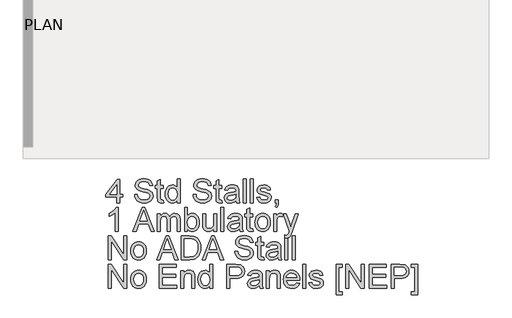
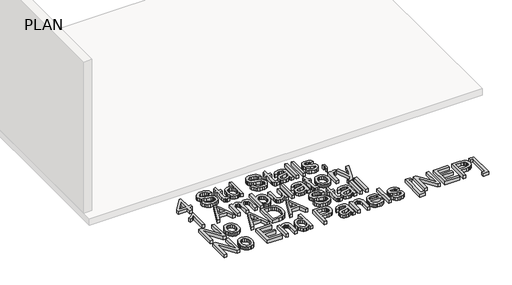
# One storey, part 8 of 21: 1 proxy.
"""IFC4 building model written with IfcOpenShell, lengths in millimetres."""

from ifc_helpers import new_model, si_unit, origin, origin_with_axes, place, context, project, spatial, polyline, outline, extrude, element, save

model = new_model("IFC4")

# Units and contexts
model_context = context("Model", 3, world=origin())
ifc_project = project(units=[si_unit("LENGTHUNIT", "METRE", prefix="MILLI")], contexts=[model_context])

# Site, building, storey
site = spatial("IfcSite", under=ifc_project)
building = spatial("IfcBuilding", under=site)
storey = spatial("IfcBuildingStorey", under=building, Name="PLAN", Elevation=0.0)

# Proxy
placement = place(None, origin())
element("IfcBuildingElementProxy", 1, Name="12\" Arial", ObjectType="12\" Arial", at=placement, inside=storey, context=model_context, shape_type="SweptSolid", body=[
    extrude(outline(polyline([(17734.3075559, -13355.7604361), (17734.3075559, -13284.3775235), (17596.3005914, -13284.3775235), (17596.3005914, -13246.3066367), (17743.8252776, -13055.9522029), (17772.3784427, -13055.9522029), (17772.3784427, -13246.3066367), (17810.4493294, -13246.3066367), (17810.4493294, -13284.3775235), (17772.3784427, -13284.3775235), (17772.3784427, -13355.7604361), (17734.3075559, -13355.7604361)]), holes=[polyline([(17734.3075559, -13246.3066367), (17734.3075559, -13128.6735452), (17643.1456279, -13246.3066367), (17734.3075559, -13246.3066367)])]), origin_with_axes(), (0.0, 0.0, 1.0), 50.8),
    extrude(outline(polyline([(17962.7328765, -13251.0654975), (18000.8037632, -13251.0654975), (18005.1722488, -13272.1922372), (18013.0727014, -13289.1735629), (18025.3974074, -13302.6508055), (18043.0386532, -13313.2652959), (18064.6022414, -13320.1526316), (18088.6939745, -13322.4484102), (18109.904366, -13320.7103106), (18128.4750768, -13315.4960119), (18143.5231153, -13307.2423627), (18154.1654897, -13296.3862114), (18160.4951464, -13283.9220856), (18162.605032, -13270.8445129), (18161.0249415, -13258.1015477), (18156.2846699, -13247.0873873), (18146.6554124, -13237.6904961), (18130.4083641, -13229.7993381), (18074.9750709, -13215.2625054), (18038.5865158, -13205.6425426), (18015.3034174, -13196.4873122), (17996.3516259, -13183.6792844), (17982.9208565, -13168.1572188), (17974.9181627, -13150.2557227), (17972.2505982, -13130.3094036), (17975.550199, -13108.011538), (17985.4490013, -13087.2194058), (18001.686755, -13069.5967492), (18024.0032099, -13056.8073107), (18050.7903914, -13049.0276886), (18080.4403252, -13046.4344812), (18112.5626359, -13049.148519), (18140.6696578, -13057.2906325), (18163.7575686, -13070.6935179), (18180.8225461, -13089.1898716), (18191.6229295, -13111.6271569), (18195.9170579, -13136.8528373), (18157.8461711, -13136.8528373), (18150.8565943, -13114.1367124), (18136.2825829, -13097.7409497), (18113.5106902, -13087.8142634), (18081.9274692, -13084.505368), (18049.6006762, -13087.7770848), (18027.4236411, -13097.5922353), (18014.597024, -13112.0361215), (18010.3214849, -13129.1940456), (18013.3515409, -13143.8238248), (18022.4417086, -13155.5908518), (18043.9309396, -13166.1123957), (18084.6043284, -13176.8570112), (18126.5789682, -13187.062537), (18151.9719523, -13195.9668118), (18173.6749602, -13209.7786618), (18188.8159452, -13226.8250501), (18197.7109253, -13246.9200836), (18200.6759187, -13269.8778693), (18197.2647821, -13293.3468608), (18187.0313724, -13315.4216547), (18170.3939487, -13334.4199195), (18147.7707704, -13348.6593235), (18120.5653296, -13357.5543036), (18090.1811185, -13360.519297), (18052.8816877, -13357.3219373), (18022.1814584, -13347.7298584), (17997.7272341, -13331.7058817), (17979.1658178, -13309.2128285), (17967.2500764, -13281.8122), (17962.7328765, -13251.0654975)])), origin_with_axes(), (0.0, 0.0, 1.0), 50.8),
    extrude(outline(polyline([(18333.9240224, -13324.0099114), (18338.6828832, -13356.8757941), (18310.2040754, -13360.519297), (18291.9307933, -13358.9392065), (18278.3048363, -13354.1989349), (18268.6755788, -13346.8933399), (18262.3923953, -13337.6172792), (18258.9347855, -13321.6862489), (18257.7822489, -13294.4157455), (18257.7822489, -13170.1648632), (18229.2290838, -13170.1648632), (18229.2290838, -13132.0939764), (18257.7822489, -13132.0939764), (18257.7822489, -13077.7388627), (18295.8531356, -13055.3573453), (18295.8531356, -13132.0939764), (18333.9240224, -13132.0939764), (18333.9240224, -13170.1648632), (18295.8531356, -13170.1648632), (18295.8531356, -13293.3003875), (18297.86078, -13312.9306885), (18304.3670351, -13319.8830868), (18317.3423666, -13322.4484102), (18333.9240224, -13324.0099114)])), origin_with_axes(), (0.0, 0.0, 1.0), 50.8),
    extrude(outline(polyline([(18510.0018736, -13355.7604361), (18510.0018736, -13319.8459082), (18498.61128, -13337.6405158), (18484.8133719, -13350.3509498), (18468.6081495, -13357.9772102), (18449.9956127, -13360.519297), (18425.3833792, -13356.8386155), (18402.8531474, -13345.7965712), (18383.7805254, -13328.16462), (18369.5411215, -13304.7142178), (18360.6740253, -13276.393419), (18357.7183266, -13244.1502779), (18360.4416591, -13212.3068067), (18368.6116565, -13183.5491593), (18382.2190242, -13159.5131942), (18401.2544676, -13141.8347697), (18424.2773159, -13130.9600291), (18449.8468983, -13127.3351156), (18468.473377, -13129.9283229), (18484.943497, -13137.7079451), (18498.9040614, -13149.6329811), (18510.0018736, -13164.6624303), (18510.0018736, -13051.1933421), (18548.0727604, -13051.1933421), (18548.0727604, -13355.7604361), (18510.0018736, -13355.7604361)]), holes=[polyline([(18395.7892134, -13244.0015635), (18400.0833417, -13278.438242), (18412.9657267, -13302.929645), (18431.685152, -13317.5687189), (18453.4904011, -13322.4484102), (18475.2863556, -13317.7917905), (18493.5317537, -13303.8219314), (18505.8843436, -13280.2785828), (18510.0018736, -13246.9014943), (18505.8099864, -13210.4106981), (18493.2343249, -13185.1106605), (18474.5241943, -13170.3321669), (18451.9288999, -13165.4060023), (18429.9005792, -13170.1369792), (18411.8503687, -13184.3299099), (18399.8045022, -13208.7097771), (18395.7892134, -13244.0015635)])]), origin_with_axes(), (0.0, 0.0, 1.0), 50.8),
    extrude(outline(polyline([(18714.63289, -13251.0654975), (18752.7037767, -13251.0654975), (18757.0722623, -13272.1922372), (18764.9727148, -13289.1735629), (18777.2974209, -13302.6508055), (18794.9386667, -13313.2652959), (18816.5022549, -13320.1526316), (18840.593988, -13322.4484102), (18861.8043795, -13320.7103106), (18880.3750903, -13315.4960119), (18895.4231288, -13307.2423627), (18906.0655032, -13296.3862114), (18912.3951599, -13283.9220856), (18914.5050454, -13270.8445129), (18912.9249549, -13258.1015477), (18908.1846834, -13247.0873873), (18898.5554259, -13237.6904961), (18882.3083775, -13229.7993381), (18826.8750844, -13215.2625054), (18790.4865293, -13205.6425426), (18767.2034309, -13196.4873122), (18748.2516393, -13183.6792844), (18734.82087, -13168.1572188), (18726.8181762, -13150.2557227), (18724.1506117, -13130.3094036), (18727.4502124, -13108.011538), (18737.3490148, -13087.2194058), (18753.5867685, -13069.5967492), (18775.9032233, -13056.8073107), (18802.6904049, -13049.0276886), (18832.3403387, -13046.4344812), (18864.4626494, -13049.148519), (18892.5696712, -13057.2906325), (18915.6575821, -13070.6935179), (18932.7225596, -13089.1898716), (18943.522943, -13111.6271569), (18947.8170714, -13136.8528373), (18909.7461846, -13136.8528373), (18902.7566077, -13114.1367124), (18888.1825964, -13097.7409497), (18865.4107037, -13087.8142634), (18833.8274827, -13084.505368), (18801.5006897, -13087.7770848), (18779.3236546, -13097.5922353), (18766.4970375, -13112.0361215), (18762.2214984, -13129.1940456), (18765.2515543, -13143.8238248), (18774.3417221, -13155.5908518), (18795.8309531, -13166.1123957), (18836.5043419, -13176.8570112), (18878.4789817, -13187.062537), (18903.8719657, -13195.9668118), (18925.5749737, -13209.7786618), (18940.7159587, -13226.8250501), (18949.6109388, -13246.9200836), (18952.5759322, -13269.8778693), (18949.1647956, -13293.3468608), (18938.9313859, -13315.4216547), (18922.2939622, -13334.4199195), (18899.6707839, -13348.6593235), (18872.4653431, -13357.5543036), (18842.081132, -13360.519297), (18804.7817012, -13357.3219373), (18774.0814719, -13347.7298584), (18749.6272475, -13331.7058817), (18731.0658313, -13309.2128285), (18719.1500899, -13281.8122), (18714.63289, -13251.0654975)])), origin_with_axes(), (0.0, 0.0, 1.0), 50.8),
    extrude(outline(polyline([(19085.8240359, -13324.0099114), (19090.5828967, -13356.8757941), (19062.1040888, -13360.519297), (19043.8308068, -13358.9392065), (19030.2048497, -13354.1989349), (19020.5755922, -13346.8933399), (19014.2924088, -13337.6172792), (19010.834799, -13321.6862489), (19009.6822623, -13294.4157455), (19009.6822623, -13170.1648632), (18981.1290973, -13170.1648632), (18981.1290973, -13132.0939764), (19009.6822623, -13132.0939764), (19009.6822623, -13077.7388627), (19047.7531491, -13055.3573453), (19047.7531491, -13132.0939764), (19085.8240359, -13132.0939764), (19085.8240359, -13170.1648632), (19047.7531491, -13170.1648632), (19047.7531491, -13293.3003875), (19049.7607935, -13312.9306885), (19056.2670486, -13319.8830868), (19069.2423801, -13322.4484102), (19085.8240359, -13324.0099114)])), origin_with_axes(), (0.0, 0.0, 1.0), 50.8),
    extrude(outline(polyline([(19266.660748, -13327.2072711), (19248.4711177, -13342.8036939), (19229.7423978, -13353.0092197), (19210.0470343, -13358.6417776), (19188.9574732, -13360.519297), (19157.141886, -13356.002097), (19133.6728945, -13342.4504972), (19119.2011243, -13321.8721419), (19114.3772009, -13296.2746756), (19116.1989523, -13280.4923597), (19121.6642066, -13266.1600093), (19130.0944542, -13253.8910712), (19140.8111858, -13244.2989923), (19167.4682422, -13231.8069826), (19200.4084821, -13226.0814781), (19239.3344767, -13220.0585448), (19266.4376764, -13212.9946108), (19266.660748, -13204.5178899), (19264.0396566, -13187.5272695), (19256.1763827, -13176.410868), (19238.5909047, -13168.1572188), (19214.0902071, -13165.4060023), (19191.4112609, -13167.2370484), (19175.5731771, -13172.7301866), (19164.7727937, -13182.8892391), (19157.2069485, -13198.7180282), (19119.1360618, -13193.9591674), (19125.744558, -13173.1391512), (19135.6061817, -13156.780567), (19149.6411034, -13144.269968), (19168.7694932, -13134.9939072), (19192.1641275, -13129.2498135), (19218.9977823, -13127.3351156), (19244.7346684, -13129.0267419), (19265.1364253, -13134.1016208), (19280.5190712, -13141.7325286), (19291.1986242, -13151.0922412), (19298.2811476, -13162.6640806), (19302.8727047, -13176.9313684), (19304.7316347, -13210.2433944), (19304.7316347, -13257.6089312), (19306.6649219, -13323.7496612), (19314.2493564, -13355.7604361), (19276.1784697, -13355.7604361), (19270.0811792, -13342.5248544), (19266.660748, -13327.2072711)]), holes=[polyline([(19266.660748, -13251.0654975), (19205.2417002, -13262.739578), (19172.4873533, -13268.9112257), (19157.6530917, -13278.9494478), (19152.4480877, -13293.5978163), (19155.282956, -13304.9187001), (19163.7875608, -13314.1947609), (19177.7760092, -13320.3849979), (19197.0624081, -13322.4484102), (19217.5106383, -13320.1712209), (19235.5794381, -13313.3396531), (19250.2278066, -13303.2735471), (19260.4147431, -13291.2927431), (19264.931943, -13278.9494478), (19266.4376764, -13261.8472916), (19266.660748, -13251.0654975)])]), origin_with_axes(), (0.0, 0.0, 1.0), 50.8),
    extrude(outline(polyline([(19357.079104, -13355.7604361), (19357.079104, -13051.1933421), (19395.1499908, -13051.1933421), (19395.1499908, -13355.7604361), (19357.079104, -13355.7604361)])), origin_with_axes(), (0.0, 0.0, 1.0), 50.8),
    extrude(outline(polyline([(19452.2563209, -13355.7604361), (19452.2563209, -13051.1933421), (19490.3272077, -13051.1933421), (19490.3272077, -13355.7604361), (19452.2563209, -13355.7604361)])), origin_with_axes(), (0.0, 0.0, 1.0), 50.8),
    extrude(outline(polyline([(19533.1569553, -13289.1363843), (19571.227842, -13284.3775235), (19577.232186, -13300.6617504), (19588.8504986, -13312.6332597), (19606.1571371, -13319.9946226), (19629.2264586, -13322.4484102), (19652.0169406, -13320.1991049), (19668.0409173, -13313.4511889), (19677.5214604, -13303.673217), (19680.6816415, -13292.3337439), (19677.5028711, -13282.6301292), (19667.9665601, -13275.2315878), (19628.7803154, -13264.3754365), (19571.4509136, -13245.7489577), (19556.9419648, -13236.389245), (19546.4297156, -13223.9994765), (19540.044291, -13209.3696972), (19537.9158161, -13193.2899526), (19539.6260317, -13178.5393429), (19544.7566786, -13164.9226805), (19552.8430242, -13152.9790552), (19563.420336, -13143.2475565), (19587.6236048, -13131.9824406), (19620.3779517, -13127.3351156), (19645.1574888, -13129.2033402), (19666.7024877, -13134.8080142), (19684.0277155, -13143.6007532), (19696.1479392, -13155.0331728), (19704.1785169, -13169.9510862), (19709.2348065, -13189.2003066), (19671.1639198, -13193.9591674), (19666.3585857, -13181.9783634), (19656.8501586, -13172.9532582), (19642.5456922, -13167.2928163), (19623.3522397, -13165.4060023), (19601.4912227, -13167.2091644), (19586.9172114, -13172.6186508), (19578.71933, -13180.4261569), (19575.9867029, -13189.4233782), (19580.5224921, -13200.5026011), (19594.7247175, -13208.9049647), (19627.516243, -13217.0098996), (19683.3956793, -13234.929985), (19698.1555836, -13243.4996524), (19709.3463423, -13255.2295008), (19716.4009817, -13270.1567088), (19718.7525282, -13288.3184551), (19715.9920171, -13307.0936483), (19707.7104839, -13324.7534834), (19694.2239466, -13339.9130577), (19675.8484234, -13351.1874683), (19653.652799, -13358.1863398), (19628.7059582, -13360.519297), (19590.3190533, -13356.0206863), (19562.3049779, -13342.5248544), (19543.604142, -13320.1805156), (19533.1569553, -13289.1363843)])), origin_with_axes(), (0.0, 0.0, 1.0), 50.8),
    extrude(outline(polyline([(19771.0999975, -13355.7604361), (19771.0999975, -13317.6895494), (19809.1708843, -13317.6895494), (19809.1708843, -13355.7604361), (19807.4606687, -13377.5378013), (19802.3300218, -13394.6864307), (19793.4815149, -13407.8383606), (19780.6177192, -13417.6256271), (19771.0999975, -13403.3490446), (19779.3536468, -13396.4524142), (19785.0791512, -13386.9161032), (19790.0610837, -13355.7604361), (19771.0999975, -13355.7604361)])), origin_with_axes(), (0.0, 0.0, 1.0), 50.8),
    extrude(outline(polyline([(17753.3429993, -13721.8131005), (17715.2721126, -13721.8131005), (17715.2721126, -13484.4649158), (17679.2088702, -13510.1553287), (17639.130339, -13529.376665), (17639.130339, -13493.3877799), (17669.0312284, -13477.1221423), (17694.9354182, -13457.7706808), (17715.3557644, -13437.1923255), (17728.8051231, -13417.2460064), (17753.3429993, -13417.2460064), (17753.3429993, -13721.8131005)])), origin_with_axes(), (0.0, 0.0, 1.0), 50.8),
    extrude(outline(polyline([(17941.5410743, -13721.8131005), (18063.1150974, -13417.2460064), (18095.5348369, -13417.2460064), (18217.1088601, -13721.8131005), (18176.8816145, -13721.8131005), (18142.0080874, -13626.6358836), (18016.5674898, -13626.6358836), (17981.7683199, -13721.8131005), (17941.5410743, -13721.8131005)]), holes=[polyline([(18030.5466435, -13588.5649968), (18128.1032908, -13588.5649968), (18100.6654838, -13513.6872957), (18079.3249672, -13455.3168932), (18060.363881, -13507.143862), (18030.5466435, -13588.5649968)])]), origin_with_axes(), (0.0, 0.0, 1.0), 50.8),
    extrude(outline(polyline([(18253.023388, -13721.8131005), (18253.023388, -13498.1466408), (18291.0942748, -13498.1466408), (18291.0942748, -13534.9534551), (18302.5452837, -13518.0464866), (18317.2680094, -13504.8016102), (18334.7605409, -13496.2412375), (18354.520967, -13493.3877799), (18375.6941799, -13496.2970054), (18392.6662109, -13505.0246818), (18405.3441137, -13518.9945409), (18413.6349415, -13537.6303143), (18427.5118541, -13518.2742055), (18443.3406432, -13504.4484135), (18461.1213088, -13496.1529383), (18480.853851, -13493.3877799), (18509.4720786, -13497.9886317), (18530.6359968, -13511.7911871), (18543.7135695, -13535.1672321), (18548.0727604, -13568.4885526), (18548.0727604, -13721.8131005), (18510.0018736, -13721.8131005), (18510.0018736, -13584.8471368), (18506.4699066, -13553.0594335), (18501.5065635, -13544.2945784), (18493.6804681, -13537.4072427), (18483.614362, -13532.9458107), (18471.9309869, -13531.4586667), (18451.3061583, -13535.2694732), (18434.4921363, -13546.7018928), (18423.3106723, -13566.5366761), (18419.5835176, -13595.5545737), (18419.5835176, -13721.8131005), (18381.5126308, -13721.8131005), (18381.5126308, -13580.6087763), (18379.3097988, -13559.0823667), (18372.7013025, -13543.7276048), (18361.0736953, -13534.5259012), (18343.8135301, -13531.4586667), (18329.1465722, -13533.5034897), (18315.632151, -13539.6379587), (18304.4785709, -13549.7133594), (18296.8941364, -13563.5809774), (18292.5442402, -13582.8209031), (18291.0942748, -13609.013227), (18291.0942748, -13721.8131005), (18253.023388, -13721.8131005)])), origin_with_axes(), (0.0, 0.0, 1.0), 50.8),
    extrude(outline(polyline([(18643.2499773, -13721.8131005), (18605.1790905, -13721.8131005), (18605.1790905, -13417.2460064), (18643.2499773, -13417.2460064), (18643.2499773, -13530.1945943), (18655.769871, -13514.091613), (18669.9070337, -13502.5894835), (18685.6614656, -13495.6882058), (18703.0331667, -13493.3877799), (18722.6448783, -13495.4604869), (18741.1784106, -13501.6786078), (18757.5741734, -13511.6517673), (18770.7725765, -13524.9895902), (18781.117522, -13541.5619513), (18788.9529121, -13561.2387255), (18793.8883713, -13583.2019837), (18795.5335243, -13606.6337966), (18793.8302797, -13633.6719337), (18788.7205458, -13657.4569433), (18780.2043227, -13677.9888253), (18768.2816103, -13695.2675798), (18753.9701728, -13708.9632467), (18738.2877744, -13718.7458659), (18721.2344152, -13724.6154375), (18702.8100951, -13726.5719613), (18684.8667731, -13724.0484638), (18668.9589794, -13716.4779713), (18655.0867142, -13703.8604838), (18643.2499773, -13686.1960013), (18643.2499773, -13721.8131005)]), holes=[polyline([(18643.2499773, -13608.4183694), (18645.8524793, -13640.1688941), (18653.6599854, -13661.6581251), (18662.8849256, -13673.4019155), (18673.6063045, -13681.7903372), (18685.824122, -13686.8233902), (18699.5383782, -13688.5010745), (18721.510931, -13683.5563207), (18740.2861242, -13668.7220592), (18753.1685092, -13644.0912364), (18757.4626376, -13609.756799), (18753.3451076, -13574.9204505), (18740.9925176, -13550.5684672), (18722.8028874, -13536.2361168), (18701.1742366, -13531.4586667), (18679.2016838, -13536.4034205), (18660.4264907, -13551.2376821), (18647.5441056, -13575.4223616), (18643.2499773, -13608.4183694)])]), origin_with_axes(), (0.0, 0.0, 1.0), 50.8),
    extrude(outline(polyline([(18981.1290973, -13721.8131005), (18981.1290973, -13683.3704277), (18967.3544258, -13702.2710987), (18951.3118598, -13715.7715779), (18933.0013991, -13723.8718655), (18912.4230438, -13726.5719613), (18893.8802169, -13724.6758527), (18876.6200517, -13718.9875268), (18862.1389869, -13710.4364488), (18851.9334611, -13699.9520835), (18845.0647146, -13687.2184128), (18840.593988, -13671.9194188), (18838.3632719, -13636.5253913), (18838.3632719, -13498.1466408), (18876.4341587, -13498.1466408), (18876.4341587, -13618.6053059), (18878.7392319, -13657.4197647), (18884.288138, -13670.3672122), (18893.7965651, -13680.2102467), (18906.6324768, -13686.4283676), (18922.1638371, -13688.5010745), (18938.5874838, -13686.3818943), (18953.9515404, -13680.0243537), (18966.6201485, -13670.0140155), (18974.9574496, -13656.9364429), (18979.5861854, -13639.0256521), (18981.1290973, -13614.5156599), (18981.1290973, -13498.1466408), (19019.199984, -13498.1466408), (19019.199984, -13721.8131005), (18981.1290973, -13721.8131005)])), origin_with_axes(), (0.0, 0.0, 1.0), 50.8),
    extrude(outline(polyline([(19071.5474533, -13721.8131005), (19071.5474533, -13417.2460064), (19109.6183401, -13417.2460064), (19109.6183401, -13721.8131005), (19071.5474533, -13721.8131005)])), origin_with_axes(), (0.0, 0.0, 1.0), 50.8),
    extrude(outline(polyline([(19309.4904956, -13693.2599354), (19291.3008653, -13708.8563582), (19272.5721454, -13719.061884), (19252.8767819, -13724.694442), (19231.7872208, -13726.5719613), (19199.9716336, -13722.0547614), (19176.5026421, -13708.5031615), (19162.0308719, -13687.9248062), (19157.2069485, -13662.3273399), (19159.0287, -13646.5450241), (19164.4939542, -13632.2126736), (19172.9242018, -13619.9437355), (19183.6409334, -13610.3516566), (19210.2979898, -13597.8596469), (19243.2382297, -13592.1341424), (19282.1642243, -13586.1112092), (19309.267424, -13579.0472751), (19309.4904956, -13570.5705542), (19306.8694042, -13553.5799339), (19299.0061303, -13542.4635324), (19281.4206523, -13534.2098831), (19256.9199547, -13531.4586667), (19234.2410085, -13533.2897127), (19218.4029247, -13538.7828509), (19207.6025413, -13548.9419035), (19200.0366961, -13564.7706926), (19161.9658094, -13560.0118317), (19168.5743056, -13539.1918155), (19178.4359293, -13522.8332314), (19192.470851, -13510.3226324), (19211.5992408, -13501.0465716), (19234.9938751, -13495.3024778), (19261.8275299, -13493.3877799), (19287.564416, -13495.0794062), (19307.966173, -13500.1542852), (19323.3488188, -13507.7851929), (19334.0283718, -13517.1449055), (19341.1108952, -13528.7167449), (19345.7024523, -13542.9840328), (19347.5613823, -13576.2960587), (19347.5613823, -13623.6615955), (19349.4946695, -13689.8023256), (19357.079104, -13721.8131005), (19319.0082173, -13721.8131005), (19312.9109268, -13708.5775187), (19309.4904956, -13693.2599354)]), holes=[polyline([(19309.4904956, -13617.1181619), (19248.0714478, -13628.7922424), (19215.3171009, -13634.96389), (19200.4828393, -13645.0021121), (19195.2778353, -13659.6504807), (19198.1127036, -13670.9713645), (19206.6173084, -13680.2474253), (19220.6057568, -13686.4376622), (19239.8921557, -13688.5010745), (19260.3403859, -13686.2238853), (19278.4091857, -13679.3923175), (19293.0575542, -13669.3262114), (19303.2444907, -13657.3454075), (19307.7616907, -13645.0021121), (19309.267424, -13627.899956), (19309.4904956, -13617.1181619)])]), origin_with_axes(), (0.0, 0.0, 1.0), 50.8),
    extrude(outline(polyline([(19480.809486, -13690.0625758), (19485.5683468, -13722.9284585), (19457.089539, -13726.5719613), (19438.8162569, -13724.9918708), (19425.1902999, -13720.2515992), (19415.5610424, -13712.9460043), (19409.2778589, -13703.6699435), (19405.8202491, -13687.7389132), (19404.6677125, -13660.4684099), (19404.6677125, -13536.2175275), (19376.1145474, -13536.2175275), (19376.1145474, -13498.1466408), (19404.6677125, -13498.1466408), (19404.6677125, -13443.791527), (19442.7385992, -13421.4100096), (19442.7385992, -13498.1466408), (19480.809486, -13498.1466408), (19480.809486, -13536.2175275), (19442.7385992, -13536.2175275), (19442.7385992, -13659.3530519), (19444.7462436, -13678.9833529), (19451.2524987, -13685.9357511), (19464.2278302, -13688.5010745), (19480.809486, -13690.0625758)])), origin_with_axes(), (0.0, 0.0, 1.0), 50.8),
    extrude(outline(polyline([(19509.362651, -13609.9798706), (19511.421416, -13581.0130936), (19517.597711, -13556.0523108), (19527.891536, -13535.0975222), (19542.302891, -13518.1487277), (19556.8118397, -13507.3158131), (19572.8265218, -13499.5780169), (19590.3469373, -13494.9353392), (19609.373086, -13493.3877799), (19630.3766715, -13495.2722702), (19649.3679653, -13500.9257411), (19666.3469674, -13510.3481927), (19681.3136777, -13523.5396248), (19693.5291715, -13540.0538943), (19702.2545243, -13559.4448581), (19707.489736, -13581.712516), (19709.2348065, -13606.8568682), (19706.1489827, -13645.3181302), (19696.8915112, -13674.596278), (19681.7319369, -13696.5223576), (19660.9398047, -13712.927415), (19636.2439194, -13723.1608247), (19609.373086, -13726.5719613), (19588.062777, -13724.694442), (19568.8948849, -13719.061884), (19551.8694096, -13709.6742874), (19536.9863511, -13696.5316522), (19524.9009823, -13679.85705), (19516.2685761, -13659.8735523), (19511.0891323, -13636.5811592), (19509.362651, -13609.9798706)]), holes=[polyline([(19547.4335378, -13609.9055134), (19551.8392019, -13644.3607813), (19565.0561944, -13668.9079522), (19584.9467456, -13683.602794), (19609.373086, -13688.5010745), (19633.6878906, -13683.57491), (19653.5412632, -13668.7964164), (19666.7582556, -13643.9239327), (19671.1639198, -13608.7157982), (19666.7303717, -13575.2643525), (19653.4297274, -13551.0517891), (19633.5484709, -13536.3569473), (19609.373086, -13531.4586667), (19584.9467456, -13536.338358), (19565.0561944, -13550.9774319), (19551.8392019, -13575.4688348), (19547.4335378, -13609.9055134)])]), origin_with_axes(), (0.0, 0.0, 1.0), 50.8),
    extrude(outline(polyline([(19752.0645541, -13721.8131005), (19752.0645541, -13498.1466408), (19785.37658, -13498.1466408), (19785.37658, -13531.2355951), (19797.6826968, -13512.0514373), (19809.0221699, -13500.7491428), (19820.3988216, -13495.2281206), (19832.8164741, -13493.3877799), (19851.7775603, -13496.3248893), (19871.0360753, -13505.1362176), (19858.3209939, -13539.2661727), (19844.9366978, -13533.4105432), (19831.5524017, -13531.4586667), (19820.1850446, -13533.336186), (19810.0259921, -13538.9687439), (19801.8188161, -13547.9287866), (19796.3070886, -13559.7887601), (19791.6783528, -13581.0549195), (19790.1354409, -13604.2543662), (19790.1354409, -13721.8131005), (19752.0645541, -13721.8131005)])), origin_with_axes(), (0.0, 0.0, 1.0), 50.8),
    extrude(outline(polyline([(19894.8303795, -13807.4725957), (19890.0715186, -13770.8144957), (19909.4043908, -13774.1605698), (19927.4731906, -13769.9593879), (19938.5524135, -13758.2481288), (19948.9624216, -13730.2154641), (19951.9367096, -13720.9951713), (19871.0360753, -13498.1466408), (19911.1889636, -13498.1466408), (19954.0930684, -13622.3231659), (19969.0388658, -13671.993776), (19983.9846631, -13628.1230276), (20028.0784831, -13498.1466408), (20067.9339427, -13498.1466408), (19990.0819536, -13727.1668189), (19969.856795, -13776.837429), (19959.5025548, -13792.694102), (19947.7727064, -13803.6803784), (19934.1467494, -13810.093687), (19918.1041833, -13812.2314565), (19894.8303795, -13807.4725957)])), origin_with_axes(), (0.0, 0.0, 1.0), 50.8),
    extrude(outline(polyline([(17624.8537565, -14087.8657648), (17624.8537565, -13783.2986707), (17665.6015025, -13783.2986707), (17824.725912, -14024.587787), (17824.725912, -13783.2986707), (17862.7967987, -13783.2986707), (17862.7967987, -14087.8657648), (17822.0490528, -14087.8657648), (17662.9246433, -13846.5022913), (17662.9246433, -14087.8657648), (17624.8537565, -14087.8657648)])), origin_with_axes(), (0.0, 0.0, 1.0), 50.8),
    extrude(outline(polyline([(17915.144268, -13976.0325349), (17917.203033, -13947.065758), (17923.379328, -13922.1049751), (17933.673153, -13901.1501865), (17948.0845079, -13884.2013921), (17962.5934567, -13873.3684774), (17978.6081388, -13865.6306812), (17996.1285542, -13860.9880035), (18015.154703, -13859.4404442), (18036.1582885, -13861.3249346), (18055.1495823, -13866.9784055), (18072.1285844, -13876.400857), (18087.0952947, -13889.5922891), (18099.3107885, -13906.1065587), (18108.0361413, -13925.4975224), (18113.271353, -13947.7651804), (18115.0164235, -13972.9095325), (18111.9305997, -14011.3707946), (18102.6731282, -14040.6489424), (18087.5135539, -14062.5750219), (18066.7214217, -14078.9800793), (18042.0255364, -14089.2134891), (18015.154703, -14092.6246256), (17993.844394, -14090.7471063), (17974.6765018, -14085.1145484), (17957.6510265, -14075.7269518), (17942.7679681, -14062.5843166), (17930.6825993, -14045.9097143), (17922.0501931, -14025.9262166), (17916.8707493, -14002.6338235), (17915.144268, -13976.0325349)]), holes=[polyline([(17953.2151548, -13975.9581777), (17957.6208189, -14010.4134456), (17970.8378114, -14034.9606165), (17990.7283625, -14049.6554583), (18015.154703, -14054.5537389), (18039.4695076, -14049.6275743), (18059.3228802, -14034.8490807), (18072.5398726, -14009.9765971), (18076.9455368, -13974.7684625), (18072.5119887, -13941.3170169), (18059.2113444, -13917.1044534), (18039.3300879, -13902.4096116), (18015.154703, -13897.511331), (17990.7283625, -13902.3910223), (17970.8378114, -13917.0300962), (17957.6208189, -13941.5214992), (17953.2151548, -13975.9581777)])]), origin_with_axes(), (0.0, 0.0, 1.0), 50.8),
    extrude(outline(polyline([(18246.1081684, -14087.8657648), (18367.6821915, -13783.2986707), (18400.101931, -13783.2986707), (18521.6759541, -14087.8657648), (18481.4487086, -14087.8657648), (18446.5751814, -13992.6885479), (18321.1345839, -13992.6885479), (18286.3354139, -14087.8657648), (18246.1081684, -14087.8657648)]), holes=[polyline([(18335.1137376, -13954.6176611), (18432.6703849, -13954.6176611), (18405.2325779, -13879.73996), (18383.8920613, -13821.3695575), (18364.9309751, -13873.1965264), (18335.1137376, -13954.6176611)])]), origin_with_axes(), (0.0, 0.0, 1.0), 50.8),
    extrude(outline(polyline([(18562.3493429, -14087.8657648), (18562.3493429, -13783.2986707), (18667.4160675, -13783.2986707), (18721.7711812, -13787.6857456), (18746.0488073, -13796.1438772), (18766.5342161, -13809.4724054), (18787.5958932, -13832.671852), (18802.5974584, -13861.5224459), (18811.5760904, -13895.466508), (18814.5689677, -13933.9463594), (18812.542734, -13966.6356437), (18806.4640328, -13995.4025857), (18797.2065613, -14019.8939887), (18785.6440166, -14039.7566559), (18772.3340777, -14055.4367306), (18757.8344236, -14067.380356), (18741.1877053, -14076.2381575), (18721.4365738, -14082.6607608), (18672.4723572, -14087.8657648), (18562.3493429, -14087.8657648)]), holes=[polyline([(18600.4202297, -14049.794878), (18667.7878535, -14049.794878), (18695.6532145, -14048.4192698), (18716.7892488, -14044.2924452), (18732.7388683, -14037.656065), (18745.0449851, -14028.7517902), (18758.2712721, -14012.2723756), (18768.2072531, -13990.9411537), (18774.425374, -13964.6651779), (18776.4980809, -13933.3515017), (18772.4363189, -13891.8601838), (18760.2510326, -13861.2250171), (18742.2472954, -13840.1819293), (18720.7301804, -13827.4668479), (18698.8319848, -13822.8938801), (18666.7468527, -13821.3695575), (18600.4202297, -13821.3695575), (18600.4202297, -14049.794878)])]), origin_with_axes(), (0.0, 0.0, 1.0), 50.8),
    extrude(outline(polyline([(18831.4480523, -14087.8657648), (18953.0220754, -13783.2986707), (18985.4418149, -13783.2986707), (19107.0158381, -14087.8657648), (19066.7885925, -14087.8657648), (19031.9150654, -13992.6885479), (18906.4744678, -13992.6885479), (18871.6752978, -14087.8657648), (18831.4480523, -14087.8657648)]), holes=[polyline([(18920.4536215, -13954.6176611), (19018.0102688, -13954.6176611), (18990.5724618, -13879.73996), (18969.2319452, -13821.3695575), (18950.270859, -13873.1965264), (18920.4536215, -13954.6176611)])]), origin_with_axes(), (0.0, 0.0, 1.0), 50.8),
    extrude(outline(polyline([(19252.3841654, -13983.1708262), (19290.4550522, -13983.1708262), (19294.8235377, -14004.2975659), (19302.7239903, -14021.2788916), (19315.0486963, -14034.7561342), (19332.6899422, -14045.3706246), (19354.2535304, -14052.2579603), (19378.3452634, -14054.5537389), (19399.5556549, -14052.8156393), (19418.1263658, -14047.6013406), (19433.1744043, -14039.3476913), (19443.8167786, -14028.49154), (19450.1464353, -14016.0274143), (19452.2563209, -14002.9498416), (19450.6762304, -13990.2068763), (19445.9359589, -13979.192716), (19436.3067014, -13969.7958247), (19420.059653, -13961.9046668), (19364.6263599, -13947.3678341), (19328.2378048, -13937.7478712), (19304.9547063, -13928.5926409), (19286.0029148, -13915.7846131), (19272.5721454, -13900.2625474), (19264.5694517, -13882.3610514), (19261.9018871, -13862.4147323), (19265.2014879, -13840.1168667), (19275.1002902, -13819.3247345), (19291.3380439, -13801.7020779), (19313.6544988, -13788.9126394), (19340.4416804, -13781.1330173), (19370.0916141, -13778.5398099), (19402.2139248, -13781.2538477), (19430.3209467, -13789.3959612), (19453.4088575, -13802.7988466), (19470.4738351, -13821.2952003), (19481.2742185, -13843.7324856), (19485.5683468, -13868.9581659), (19447.4974601, -13868.9581659), (19440.5078832, -13846.2420411), (19425.9338719, -13829.8462784), (19403.1619791, -13819.9195921), (19371.5787582, -13816.6106966), (19339.2519651, -13819.8824135), (19317.07493, -13829.697564), (19304.2483129, -13844.1414502), (19299.9727739, -13861.2993743), (19303.0028298, -13875.9291535), (19312.0929976, -13887.6961805), (19333.5822286, -13898.2177244), (19374.2556174, -13908.9623399), (19416.2302572, -13919.1678657), (19441.6232412, -13928.0721405), (19463.3262492, -13941.8839905), (19478.4672342, -13958.9303788), (19487.3622143, -13979.0254123), (19490.3272077, -14001.983198), (19486.9160711, -14025.4521895), (19476.6826613, -14047.5269834), (19460.0452377, -14066.5252482), (19437.4220594, -14080.7646521), (19410.2166186, -14089.6596323), (19379.8324074, -14092.6246256), (19342.5329766, -14089.427266), (19311.8327474, -14079.8351871), (19287.378523, -14063.8112104), (19268.8171068, -14041.3181572), (19256.9013654, -14013.9175287), (19252.3841654, -13983.1708262)])), origin_with_axes(), (0.0, 0.0, 1.0), 50.8),
    extrude(outline(polyline([(19623.5753113, -14056.1152401), (19628.3341722, -14088.9811228), (19599.8553643, -14092.6246256), (19581.5820822, -14091.0445351), (19567.9561252, -14086.3042636), (19558.3268677, -14078.9986686), (19552.0436843, -14069.7226078), (19548.5860744, -14053.7915776), (19547.4335378, -14026.5210742), (19547.4335378, -13902.2701919), (19518.8803727, -13902.2701919), (19518.8803727, -13864.1993051), (19547.4335378, -13864.1993051), (19547.4335378, -13809.8441914), (19585.5044246, -13787.462674), (19585.5044246, -13864.1993051), (19623.5753113, -13864.1993051), (19623.5753113, -13902.2701919), (19585.5044246, -13902.2701919), (19585.5044246, -14025.4057162), (19587.512069, -14045.0360172), (19594.018324, -14051.9884155), (19606.9936556, -14054.5537389), (19623.5753113, -14056.1152401)])), origin_with_axes(), (0.0, 0.0, 1.0), 50.8),
    extrude(outline(polyline([(19804.4120234, -14059.3125997), (19786.2223932, -14074.9090226), (19767.4936733, -14085.1145484), (19747.7983097, -14090.7471063), (19726.7087487, -14092.6246256), (19694.8931614, -14088.1074257), (19671.42417, -14074.5558259), (19656.9523998, -14053.9774706), (19652.1284764, -14028.3800042), (19653.9502278, -14012.5976884), (19659.4154821, -13998.265338), (19667.8457297, -13985.9963998), (19678.5624612, -13976.404321), (19705.2195177, -13963.9123112), (19738.1597576, -13958.1868068), (19777.0857522, -13952.1638735), (19804.1889518, -13945.0999395), (19804.4120234, -13936.6232186), (19801.7909321, -13919.6325982), (19793.9276581, -13908.5161967), (19776.3421802, -13900.2625474), (19751.8414825, -13897.511331), (19729.1625363, -13899.3423771), (19713.3244526, -13904.8355153), (19702.5240692, -13914.9945678), (19694.958224, -13930.8233569), (19656.8873372, -13926.0644961), (19663.4958335, -13905.2444799), (19673.3574572, -13888.8858957), (19687.3923788, -13876.3752967), (19706.5207687, -13867.0992359), (19729.915403, -13861.3551422), (19756.7490578, -13859.4404442), (19782.4859439, -13861.1320706), (19802.8877008, -13866.2069495), (19818.2703467, -13873.8378572), (19828.9498997, -13883.1975699), (19836.032423, -13894.7694092), (19840.6239802, -13909.0366971), (19842.4829102, -13942.348723), (19842.4829102, -13989.7142599), (19844.4161974, -14055.8549899), (19852.0006319, -14087.8657648), (19813.9297451, -14087.8657648), (19807.8324547, -14074.6301831), (19804.4120234, -14059.3125997)]), holes=[polyline([(19804.4120234, -13983.1708262), (19742.9929756, -13994.8449067), (19710.2386287, -14001.0165544), (19695.4043672, -14011.0547765), (19690.1993632, -14025.703145), (19693.0342314, -14037.0240288), (19701.5388363, -14046.3000896), (19715.5272846, -14052.4903266), (19734.8136836, -14054.5537389), (19755.2619138, -14052.2765496), (19773.3307135, -14045.4449818), (19787.9790821, -14035.3788758), (19798.1660186, -14023.3980718), (19802.6832185, -14011.0547765), (19804.1889518, -13993.9526203), (19804.4120234, -13983.1708262)])]), origin_with_axes(), (0.0, 0.0, 1.0), 50.8),
    extrude(outline(polyline([(19894.8303795, -14087.8657648), (19894.8303795, -13783.2986707), (19932.9012662, -13783.2986707), (19932.9012662, -14087.8657648), (19894.8303795, -14087.8657648)])), origin_with_axes(), (0.0, 0.0, 1.0), 50.8),
    extrude(outline(polyline([(19990.0075964, -14087.8657648), (19990.0075964, -13783.2986707), (20028.0784831, -13783.2986707), (20028.0784831, -14087.8657648), (19990.0075964, -14087.8657648)])), origin_with_axes(), (0.0, 0.0, 1.0), 50.8),
    extrude(outline(polyline([(17624.8537565, -14453.9184291), (17624.8537565, -14149.3513351), (17665.6015025, -14149.3513351), (17824.725912, -14390.6404513), (17824.725912, -14149.3513351), (17862.7967987, -14149.3513351), (17862.7967987, -14453.9184291), (17822.0490528, -14453.9184291), (17662.9246433, -14212.5549557), (17662.9246433, -14453.9184291), (17624.8537565, -14453.9184291)])), origin_with_axes(), (0.0, 0.0, 1.0), 50.8),
    extrude(outline(polyline([(17915.144268, -14342.0851993), (17917.203033, -14313.1184223), (17923.379328, -14288.1576395), (17933.673153, -14267.2028509), (17948.0845079, -14250.2540564), (17962.5934567, -14239.4211417), (17978.6081388, -14231.6833455), (17996.1285542, -14227.0406678), (18015.154703, -14225.4931086), (18036.1582885, -14227.3775989), (18055.1495823, -14233.0310698), (18072.1285844, -14242.4535213), (18087.0952947, -14255.6449535), (18099.3107885, -14272.159223), (18108.0361413, -14291.5501868), (18113.271353, -14313.8178447), (18115.0164235, -14338.9621969), (18111.9305997, -14377.4234589), (18102.6731282, -14406.7016067), (18087.5135539, -14428.6276863), (18066.7214217, -14445.0327437), (18042.0255364, -14455.2661534), (18015.154703, -14458.67729), (17993.844394, -14456.7997707), (17974.6765018, -14451.1672127), (17957.6510265, -14441.7796161), (17942.7679681, -14428.6369809), (17930.6825993, -14411.9623786), (17922.0501931, -14391.978881), (17916.8707493, -14368.6864878), (17915.144268, -14342.0851993)]), holes=[polyline([(17953.2151548, -14342.0108421), (17957.6208189, -14376.46611), (17970.8378114, -14401.0132808), (17990.7283625, -14415.7081226), (18015.154703, -14420.6064032), (18039.4695076, -14415.6802387), (18059.3228802, -14400.901745), (18072.5398726, -14376.0292614), (18076.9455368, -14340.8211269), (18072.5119887, -14307.3696812), (18059.2113444, -14283.1571177), (18039.3300879, -14268.4622759), (18015.154703, -14263.5639953), (17990.7283625, -14268.4436866), (17970.8378114, -14283.0827605), (17957.6208189, -14307.5741635), (17953.2151548, -14342.0108421)])]), origin_with_axes(), (0.0, 0.0, 1.0), 50.8),
    extrude(outline(polyline([(18281.5765531, -14453.9184291), (18281.5765531, -14149.3513351), (18500.4841519, -14149.3513351), (18500.4841519, -14187.4222218), (18319.6474398, -14187.4222218), (18319.6474398, -14277.8405779), (18490.9664303, -14277.8405779), (18490.9664303, -14315.9114646), (18319.6474398, -14315.9114646), (18319.6474398, -14415.8475424), (18505.2430128, -14415.8475424), (18505.2430128, -14453.9184291), (18281.5765531, -14453.9184291)])), origin_with_axes(), (0.0, 0.0, 1.0), 50.8),
    extrude(outline(polyline([(18557.5904821, -14453.9184291), (18557.5904821, -14230.2519694), (18595.6613688, -14230.2519694), (18595.6613688, -14261.4819937), (18608.8876559, -14245.7368565), (18624.7722129, -14234.4903299), (18643.3150398, -14227.7424139), (18664.5161367, -14225.4931086), (18683.2820352, -14227.3055654), (18700.4678432, -14232.7429357), (18714.8001937, -14241.12671), (18725.0057195, -14251.778379), (18736.4195498, -14279.7738651), (18738.4271942, -14316.5806794), (18738.4271942, -14453.9184291), (18700.3563074, -14453.9184291), (18700.3563074, -14321.7113263), (18695.9692326, -14288.0275144), (18689.8998261, -14277.9985869), (18680.4657562, -14270.2189648), (18668.3734165, -14265.2277377), (18654.3292002, -14263.5639953), (18632.0313346, -14267.3004447), (18613.0237752, -14278.5097927), (18605.4277224, -14287.6603757), (18600.0019704, -14300.1663274), (18595.6613688, -14335.2443368), (18595.6613688, -14453.9184291), (18557.5904821, -14453.9184291)])), origin_with_axes(), (0.0, 0.0, 1.0), 50.8),
    extrude(outline(polyline([(18928.781628, -14453.9184291), (18928.781628, -14418.0039012), (18917.3910343, -14435.7985088), (18903.5931262, -14448.5089428), (18887.3879038, -14456.1352032), (18868.775367, -14458.67729), (18844.1631336, -14454.9966086), (18821.6329018, -14443.9545642), (18802.5602798, -14426.322613), (18788.3208759, -14402.8722109), (18779.4537797, -14374.551412), (18776.4980809, -14342.3082709), (18779.2214134, -14310.4647997), (18787.3914109, -14281.7071523), (18800.9987786, -14257.6711872), (18820.034222, -14239.9927627), (18843.0570702, -14229.1180221), (18868.6266526, -14225.4931086), (18887.2531314, -14228.086316), (18903.7232513, -14235.8659381), (18917.6838158, -14247.7909741), (18928.781628, -14262.8204233), (18928.781628, -14149.3513351), (18966.8525147, -14149.3513351), (18966.8525147, -14453.9184291), (18928.781628, -14453.9184291)]), holes=[polyline([(18814.5689677, -14342.1595565), (18818.863096, -14376.5962351), (18831.7454811, -14401.087638), (18850.4649063, -14415.7267119), (18872.2701554, -14420.6064032), (18894.0661099, -14415.9497835), (18912.311508, -14401.9799245), (18924.664098, -14378.4365758), (18928.781628, -14345.0594873), (18924.5897408, -14308.5686911), (18912.0140792, -14283.2686535), (18893.3039486, -14268.4901599), (18870.7086542, -14263.5639953), (18848.6803335, -14268.2949722), (18830.6301231, -14282.4879029), (18818.5842565, -14306.8677701), (18814.5689677, -14342.1595565)])]), origin_with_axes(), (0.0, 0.0, 1.0), 50.8),
    extrude(outline(polyline([(19147.6892268, -14453.9184291), (19147.6892268, -14149.3513351), (19260.5634575, -14149.3513351), (19306.0700643, -14152.2512659), (19326.3602855, -14157.6700469), (19343.0627717, -14166.4906698), (19356.5121304, -14179.1128047), (19367.0429689, -14195.9361213), (19373.8466528, -14215.7801992), (19376.1145474, -14237.4646179), (19374.5832538, -14256.1608066), (19369.989373, -14273.3605565), (19362.332905, -14289.0638679), (19351.6138498, -14303.2707405), (19336.898095, -14315.0470622), (19317.2515284, -14323.4587205), (19292.6741499, -14328.5057155), (19263.1659595, -14330.1880472), (19185.7601136, -14330.1880472), (19185.7601136, -14453.9184291), (19147.6892268, -14453.9184291)]), holes=[polyline([(19185.7601136, -14292.1171604), (19265.3966756, -14292.1171604), (19299.1548447, -14288.622372), (19321.4620049, -14278.1380067), (19333.8982467, -14261.31469), (19338.0436606, -14238.8030475), (19335.5991677, -14221.7008914), (19328.2656887, -14207.2755944), (19316.9540996, -14196.4194431), (19302.5752759, -14190.0247239), (19264.5043891, -14187.4222218), (19185.7601136, -14187.4222218), (19185.7601136, -14292.1171604)])]), origin_with_axes(), (0.0, 0.0, 1.0), 50.8),
    extrude(outline(polyline([(19566.4689812, -14425.3652641), (19548.279351, -14440.9616869), (19529.550631, -14451.1672127), (19509.8552675, -14456.7997707), (19488.7657065, -14458.67729), (19456.9501192, -14454.16009), (19433.4811277, -14440.6084902), (19419.0093575, -14420.0301349), (19414.1854342, -14394.4326686), (19416.0071856, -14378.6503527), (19421.4724398, -14364.3180023), (19429.9026875, -14352.0490642), (19440.619419, -14342.4569853), (19467.2764755, -14329.9649756), (19500.2167154, -14324.2394711), (19539.1427099, -14318.2165379), (19566.2459096, -14311.1526038), (19566.4689812, -14302.6758829), (19563.8478899, -14285.6852626), (19555.9846159, -14274.5688611), (19538.3991379, -14266.3152118), (19513.8984403, -14263.5639953), (19491.2194941, -14265.3950414), (19475.3814103, -14270.8881796), (19464.5810269, -14281.0472322), (19457.0151818, -14296.8760213), (19418.944295, -14292.1171604), (19425.5527912, -14271.2971442), (19435.414415, -14254.9385601), (19449.4493366, -14242.427961), (19468.5777265, -14233.1519003), (19491.9723607, -14227.4078065), (19518.8060155, -14225.4931086), (19544.5429016, -14227.1847349), (19564.9446586, -14232.2596139), (19580.3273045, -14239.8905216), (19591.0068574, -14249.2502342), (19598.0893808, -14260.8220736), (19602.6809379, -14275.0893615), (19604.5398679, -14308.4013874), (19604.5398679, -14355.7669242), (19606.4731552, -14421.9076542), (19614.0575896, -14453.9184291), (19575.9867029, -14453.9184291), (19569.8894124, -14440.6828474), (19566.4689812, -14425.3652641)]), holes=[polyline([(19566.4689812, -14349.2234906), (19505.0499334, -14360.8975711), (19472.2955865, -14367.0692187), (19457.461325, -14377.1074408), (19452.2563209, -14391.7558094), (19455.0911892, -14403.0766932), (19463.595794, -14412.3527539), (19477.5842424, -14418.5429909), (19496.8706413, -14420.6064032), (19517.3188715, -14418.329214), (19535.3876713, -14411.4976461), (19550.0360398, -14401.4315401), (19560.2229763, -14389.4507361), (19564.7401763, -14377.1074408), (19566.2459096, -14360.0052847), (19566.4689812, -14349.2234906)])]), origin_with_axes(), (0.0, 0.0, 1.0), 50.8),
    extrude(outline(polyline([(19656.8873372, -14453.9184291), (19656.8873372, -14230.2519694), (19694.958224, -14230.2519694), (19694.958224, -14261.4819937), (19708.1845111, -14245.7368565), (19724.0690681, -14234.4903299), (19742.611895, -14227.7424139), (19763.8129918, -14225.4931086), (19782.5788904, -14227.3055654), (19799.7646984, -14232.7429357), (19814.0970488, -14241.12671), (19824.3025746, -14251.778379), (19835.7164049, -14279.7738651), (19837.7240493, -14316.5806794), (19837.7240493, -14453.9184291), (19799.6531626, -14453.9184291), (19799.6531626, -14321.7113263), (19795.2660877, -14288.0275144), (19789.1966812, -14277.9985869), (19779.7626114, -14270.2189648), (19767.6702716, -14265.2277377), (19753.6260554, -14263.5639953), (19731.3281898, -14267.3004447), (19712.3206304, -14278.5097927), (19704.7245776, -14287.6603757), (19699.2988256, -14300.1663274), (19694.958224, -14335.2443368), (19694.958224, -14453.9184291), (19656.8873372, -14453.9184291)])), origin_with_axes(), (0.0, 0.0, 1.0), 50.8),
    extrude(outline(polyline([(20046.6677833, -14387.2943773), (20083.9950981, -14392.0532382), (20070.5457394, -14420.1788493), (20049.0843923, -14441.2033478), (20020.0943787, -14454.3088044), (19984.0590203, -14458.67729), (19960.4366671, -14456.7927997), (19939.388932, -14451.1393288), (19920.915815, -14441.7168772), (19905.017316, -14428.5254451), (19892.2325248, -14411.932171), (19883.1005311, -14392.3041937), (19877.6213348, -14369.6415131), (19875.7949361, -14343.9441293), (19877.6399241, -14317.375372), (19883.1748883, -14293.9575011), (19892.3998285, -14273.6905166), (19905.3147448, -14256.5744185), (19921.1714178, -14242.9763454), (19939.2216283, -14233.2634361), (19959.4653762, -14227.4356905), (19981.9026615, -14225.4931086), (20003.6172878, -14227.4310431), (20023.2545597, -14233.2448468), (20040.8144774, -14242.9345195), (20056.2970408, -14256.5000613), (20068.9354413, -14273.5789808), (20077.9628702, -14293.8087867), (20083.3793275, -14317.189479), (20085.1848133, -14343.7210577), (20084.9617417, -14353.9823514), (19913.8658229, -14353.9823514), (19920.4557298, -14382.4797486), (19935.7640185, -14403.4298899), (19957.8574017, -14416.3122749), (19984.8025923, -14420.6064032), (20005.0649295, -14418.6173481), (20022.1299071, -14412.6501828), (20035.997525, -14402.3331212), (20046.6677833, -14387.2943773)]), holes=[polyline([(19913.8658229, -14315.9114646), (20047.1139265, -14315.9114646), (20041.9646904, -14295.7978419), (20031.8707004, -14281.4097235), (20009.675076, -14268.0254274), (19981.7539471, -14263.5639953), (19956.0914182, -14267.1238463), (19934.8717321, -14277.8033993), (19920.1211224, -14294.4501176), (19913.8658229, -14315.9114646)])]), origin_with_axes(), (0.0, 0.0, 1.0), 50.8),
    extrude(outline(polyline([(20123.2557, -14453.9184291), (20123.2557, -14149.3513351), (20161.3265868, -14149.3513351), (20161.3265868, -14453.9184291), (20123.2557, -14453.9184291)])), origin_with_axes(), (0.0, 0.0, 1.0), 50.8),
    extrude(outline(polyline([(20204.1563344, -14387.2943773), (20242.2272212, -14382.5355165), (20248.2315651, -14398.8197434), (20259.8498777, -14410.7912527), (20277.1565162, -14418.1526156), (20300.2258377, -14420.6064032), (20323.0163197, -14418.3570979), (20339.0402965, -14411.6091819), (20348.5208396, -14401.83121), (20351.6810206, -14390.4917369), (20348.5022503, -14380.7881223), (20338.9659393, -14373.3895808), (20299.7796945, -14362.5334295), (20242.4502928, -14343.9069507), (20227.941344, -14334.5472381), (20217.4290947, -14322.1574695), (20211.0436701, -14307.5276903), (20208.9151952, -14291.4479456), (20210.6254109, -14276.6973359), (20215.7560577, -14263.0806735), (20223.8424033, -14251.1370482), (20234.4197151, -14241.4055495), (20258.6229839, -14230.1404336), (20291.3773308, -14225.4931086), (20316.1568679, -14227.3613333), (20337.7018669, -14232.9660073), (20355.0270946, -14241.7587462), (20367.1473183, -14253.1911658), (20375.177896, -14268.1090792), (20380.2341857, -14287.3582996), (20342.1632989, -14292.1171604), (20337.3579648, -14280.1363565), (20327.8495378, -14271.1112512), (20313.5450713, -14265.4508093), (20294.3516188, -14263.5639953), (20272.4906018, -14265.3671575), (20257.9165905, -14270.7766438), (20249.7187091, -14278.5841499), (20246.986082, -14287.5813712), (20251.5218712, -14298.6605941), (20265.7240966, -14307.0629578), (20298.5156221, -14315.1678926), (20354.3950584, -14333.087978), (20369.1549627, -14341.6576454), (20380.3457215, -14353.3874938), (20387.4003609, -14368.3147018), (20389.7519073, -14386.4764481), (20386.9913963, -14405.2516413), (20378.709863, -14422.9114764), (20365.2233258, -14438.0710507), (20346.8478025, -14449.3454613), (20324.6521781, -14456.3443328), (20299.7053373, -14458.67729), (20261.3184324, -14454.1786793), (20233.3043571, -14440.6828474), (20214.6035211, -14418.3385086), (20204.1563344, -14387.2943773)])), origin_with_axes(), (0.0, 0.0, 1.0), 50.8),
    extrude(outline(polyline([(20551.5531761, -14539.5779243), (20551.5531761, -14149.3513351), (20632.4538104, -14149.3513351), (20632.4538104, -14187.4222218), (20589.6240628, -14187.4222218), (20589.6240628, -14501.5070376), (20632.4538104, -14501.5070376), (20632.4538104, -14539.5779243), (20551.5531761, -14539.5779243)])), origin_with_axes(), (0.0, 0.0, 1.0), 50.8),
    extrude(outline(polyline([(20675.283558, -14453.9184291), (20675.283558, -14149.3513351), (20716.031304, -14149.3513351), (20875.1557135, -14390.6404513), (20875.1557135, -14149.3513351), (20913.2266003, -14149.3513351), (20913.2266003, -14453.9184291), (20872.4788543, -14453.9184291), (20713.3544448, -14212.5549557), (20713.3544448, -14453.9184291), (20675.283558, -14453.9184291)])), origin_with_axes(), (0.0, 0.0, 1.0), 50.8),
    extrude(outline(polyline([(20979.8506521, -14453.9184291), (20979.8506521, -14149.3513351), (21198.758251, -14149.3513351), (21198.758251, -14187.4222218), (21017.9215389, -14187.4222218), (21017.9215389, -14277.8405779), (21189.2405293, -14277.8405779), (21189.2405293, -14315.9114646), (21017.9215389, -14315.9114646), (21017.9215389, -14415.8475424), (21203.5171118, -14415.8475424), (21203.5171118, -14453.9184291), (20979.8506521, -14453.9184291)])), origin_with_axes(), (0.0, 0.0, 1.0), 50.8),
    extrude(outline(polyline([(21260.6234419, -14453.9184291), (21260.6234419, -14149.3513351), (21373.4976726, -14149.3513351), (21419.0042794, -14152.2512659), (21439.2945006, -14157.6700469), (21455.9969868, -14166.4906698), (21469.4463455, -14179.1128047), (21479.977184, -14195.9361213), (21486.7808679, -14215.7801992), (21489.0487625, -14237.4646179), (21487.5174689, -14256.1608066), (21482.9235881, -14273.3605565), (21475.2671201, -14289.0638679), (21464.5480649, -14303.2707405), (21449.8323101, -14315.0470622), (21430.1857435, -14323.4587205), (21405.608365, -14328.5057155), (21376.1001746, -14330.1880472), (21298.6943287, -14330.1880472), (21298.6943287, -14453.9184291), (21260.6234419, -14453.9184291)]), holes=[polyline([(21298.6943287, -14292.1171604), (21378.3308907, -14292.1171604), (21412.0890598, -14288.622372), (21434.39622, -14278.1380067), (21446.8324618, -14261.31469), (21450.9778757, -14238.8030475), (21448.5333828, -14221.7008914), (21441.1999038, -14207.2755944), (21429.8883147, -14196.4194431), (21415.509491, -14190.0247239), (21377.4386042, -14187.4222218), (21298.6943287, -14187.4222218), (21298.6943287, -14292.1171604)])]), origin_with_axes(), (0.0, 0.0, 1.0), 50.8),
    extrude(outline(polyline([(21598.5025619, -14539.5779243), (21517.6019276, -14539.5779243), (21517.6019276, -14501.5070376), (21560.4316752, -14501.5070376), (21560.4316752, -14187.4222218), (21517.6019276, -14187.4222218), (21517.6019276, -14149.3513351), (21598.5025619, -14149.3513351), (21598.5025619, -14539.5779243)])), origin_with_axes(), (0.0, 0.0, 1.0), 50.8),
])

save(model, "model.ifc")
